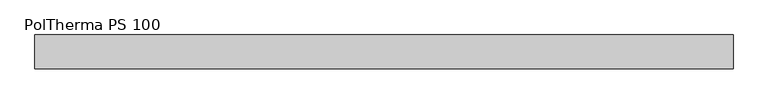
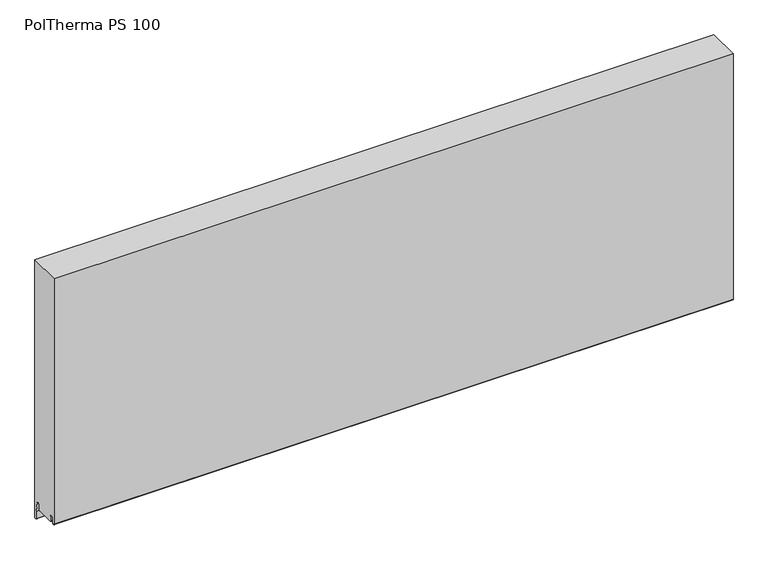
"""IFC4 building model written with IfcOpenShell, lengths in millimetres: plate geometry, Europanels_Poltherma PS_Hz : PolTherma PS 100."""

from ifc_helpers import new_model, si_unit, frame, origin, place, context, project, spatial, polyline, circle_curve, source, transform, mapped, element, save
from ifc_brep_helpers import plane_surface, cylinder_surface, revolved_surface, advanced_brep


def poltherma_ps_100_1a976a6a(model_context):
    return source(origin(), model_context, "Body", "AdvancedBrep", [
        advanced_brep(
        [(1025.0, 50.0, 3.6911192), (1025.0, 50.0, 825.0), (1025.0, -50.0, 825.0), (1025.0, -50.0, 41.7345224), (1025.0, -47.9973085, 39.7345224), (1025.0, -45.27015, 39.7345224), (1025.0, -43.2805625, 41.5307044), (1025.0, -42.306057, 59.5434261), (1025.0, -39.3216758, 62.2376991), (1025.0, -36.3730069, 62.2376991), (1025.0, -33.3900718, 59.5572268), (1025.0, -32.337447, 41.2981312), (1025.0, -30.5974015, 39.7345224), (1025.0, 25.3314364, 38.2345224), (1025.0, 27.6798185, 40.4973354), (1025.0, 28.3397973, 58.2738665), (1025.0, 30.9832499, 60.7376991), (1025.0, 34.3675437, 60.7376991), (1025.0, 36.9690493, 58.5923462), (1025.0, 43.3, 25.9556669), (1025.0, 43.3, 3.2773261), (1025.0, 45.8152999, 1.1585869), (1025.0, 48.2152999, 1.57238), (-1025.0, 50.0, 3.6911192), (-1025.0, 48.2152999, 1.57238), (-1025.0, 45.8152999, 1.1585869), (-1025.0, 43.3, 3.2773261), (-1025.0, 43.3, 25.9556669), (-1025.0, 36.9690493, 58.5923462), (-1025.0, 34.3675437, 60.7376991), (-1025.0, 30.9832499, 60.7376991), (-1025.0, 28.3397973, 58.2738665), (-1025.0, 27.6798185, 40.4973354), (-1025.0, 25.3314364, 38.2345224), (-1025.0, -30.5974015, 39.7345224), (-1025.0, -32.337447, 41.2981312), (-1025.0, -33.3900718, 59.5572268), (-1025.0, -36.3730069, 62.2376991), (-1025.0, -39.3216758, 62.2376991), (-1025.0, -42.306057, 59.5434261), (-1025.0, -43.2805625, 41.5307044), (-1025.0, -45.27015, 39.7345224), (-1025.0, -47.9973085, 39.7345224), (-1025.0, -49.9973085, 41.7345224), (-1025.0, -50.0, 825.0), (-1025.0, 50.0, 825.0)],
        [
            (0, 1),
            (1, 2),
            (2, 3),
            (3, 4, circle_curve(frame((1025.0, -47.9973085, 41.7345224), z_axis=(1.0, 0.0, 0.0), x_axis=(0.0, 1.0, 0.0)), 2.0)),
            (4, 5),
            (5, 6, circle_curve(frame((1025.0, -45.27015, 41.7345224), z_axis=(1.0, 0.0, 0.0), x_axis=(0.0, 1.0, 0.0)), 2.0)),
            (6, 7),
            (7, 8, circle_curve(frame((1025.0, -39.3216758, 59.2376991), z_axis=(-1.0, 0.0, 0.0), x_axis=(0.0, 1.0, 0.0)), 3.0)),
            (8, 9),
            (9, 10, circle_curve(frame((1025.0, -36.3730069, 59.2376991), z_axis=(-1.0, 0.0, 0.0), x_axis=(0.0, 1.0, 0.0)), 3.0)),
            (10, 11),
            (11, 12, circle_curve(frame((1025.0, -30.5974015, 41.4845224), z_axis=(1.0, 0.0, 0.0), x_axis=(0.0, 1.0, 0.0)), 1.75)),
            (12, 13),
            (13, 14, circle_curve(frame((1025.0, 25.3314364, 40.5845224), z_axis=(1.0, 0.0, 0.0), x_axis=(0.0, 1.0, 0.0)), 2.35)),
            (14, 15),
            (15, 16, circle_curve(frame((1025.0, 30.9832499, 58.0876991), z_axis=(-1.0, 0.0, 0.0), x_axis=(0.0, 1.0, 0.0)), 2.65)),
            (16, 17),
            (17, 18, circle_curve(frame((1025.0, 34.3675437, 58.0876991), z_axis=(-1.0, 0.0, 0.0), x_axis=(0.0, 1.0, 0.0)), 2.65)),
            (18, 19),
            (19, 20),
            (20, 21, circle_curve(frame((1025.0, 45.45, 3.2773261), z_axis=(1.0, 0.0, 0.0), x_axis=(0.0, 1.0, 0.0)), 2.15)),
            (21, 22),
            (22, 0, circle_curve(frame((1025.0, 47.85, 3.6911192), z_axis=(1.0, 0.0, 0.0), x_axis=(0.0, 1.0, 0.0)), 2.15)),
            (23, 24, circle_curve(frame((-1025.0, 47.85, 3.6911192), z_axis=(-1.0, 0.0, 0.0), x_axis=(0.0, 1.0, 0.0)), 2.15)),
            (24, 25),
            (25, 26, circle_curve(frame((-1025.0, 45.45, 3.2773261), z_axis=(-1.0, 0.0, 0.0), x_axis=(0.0, 1.0, 0.0)), 2.15)),
            (26, 27),
            (27, 28),
            (28, 29, circle_curve(frame((-1025.0, 34.3675437, 58.0876991), z_axis=(1.0, 0.0, 0.0), x_axis=(0.0, 1.0, 0.0)), 2.65)),
            (29, 30),
            (30, 31, circle_curve(frame((-1025.0, 30.9832499, 58.0876991), z_axis=(1.0, 0.0, 0.0), x_axis=(0.0, 1.0, 0.0)), 2.65)),
            (31, 32),
            (32, 33, circle_curve(frame((-1025.0, 25.3314364, 40.5845224), z_axis=(-1.0, 0.0, 0.0), x_axis=(0.0, 1.0, 0.0)), 2.35)),
            (33, 34),
            (34, 35, circle_curve(frame((-1025.0, -30.5974015, 41.4845224), z_axis=(-1.0, 0.0, 0.0), x_axis=(0.0, 1.0, 0.0)), 1.75)),
            (35, 36),
            (36, 37, circle_curve(frame((-1025.0, -36.3730069, 59.2376991), z_axis=(1.0, 0.0, 0.0), x_axis=(0.0, 1.0, 0.0)), 3.0)),
            (37, 38),
            (38, 39, circle_curve(frame((-1025.0, -39.3216758, 59.2376991), z_axis=(1.0, 0.0, 0.0), x_axis=(0.0, 1.0, 0.0)), 3.0)),
            (39, 40),
            (40, 41, circle_curve(frame((-1025.0, -45.27015, 41.7345224), z_axis=(-1.0, 0.0, 0.0), x_axis=(0.0, 1.0, 0.0)), 2.0)),
            (41, 42),
            (42, 43, circle_curve(frame((-1025.0, -47.9973085, 41.7345224), z_axis=(-1.0, 0.0, 0.0), x_axis=(0.0, 1.0, 0.0)), 2.0)),
            (43, 44),
            (44, 45),
            (45, 23),
            (0, 23),
            (45, 1),
            (2, 44),
            (43, 3),
            (42, 4),
            (41, 5),
            (40, 6),
            (39, 7),
            (38, 8),
            (37, 9),
            (36, 10),
            (35, 11),
            (34, 12),
            (33, 13),
            (32, 14),
            (31, 15),
            (30, 16),
            (29, 17),
            (28, 18),
            (27, 19),
            (26, 20),
            (25, 21),
            (24, 22),
        ],
        [
            plane_surface(frame((1025.0, 50.0, 825.0), z_axis=(1.0, 0.0, 0.0), x_axis=(0.0, 0.0, 1.0))),
            plane_surface(frame((-1025.0, 50.0, 825.0), z_axis=(-1.0, 0.0, 0.0), x_axis=(0.0, 0.0, -1.0))),
            plane_surface(frame((1025.0, 50.0, 3.6911192), z_axis=(0.0, 1.0, 0.0), x_axis=(-1.0, 0.0, 0.0))),
            plane_surface(frame((1025.0, -50.0, 825.0), z_axis=(0.0, -1.0, 0.0), x_axis=(-1.0, 0.0, 0.0))),
            cylinder_surface(frame((-1025.0, -47.9973085, 41.7345224), z_axis=(1.0, 0.0, 0.0), x_axis=(0.0, 1.0, 0.0)), 2.0),
            plane_surface(frame((1025.0, -47.9973085, 39.7345224), z_axis=(0.0, 0.0, -1.0), x_axis=(-1.0, 0.0, 0.0))),
            cylinder_surface(frame((-1025.0, -45.27015, 41.7345224), z_axis=(1.0, 0.0, 0.0), x_axis=(0.0, 1.0, 0.0)), 2.0),
            plane_surface(frame((1025.0, -43.2805625, 41.5307044), z_axis=(0.0, 0.9985397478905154, -0.05402195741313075), x_axis=(-1.0, 0.0, 0.0))),
            revolved_surface(polyline([(-1025.0, -36.3216758, 59.2376991), (1025.0, -36.3216758, 59.2376991)]), (-1025.0, -39.3216758, 59.2376991), (-1.0, 0.0, 0.0)),
            plane_surface(frame((1025.0, -39.3216758, 62.2376991), z_axis=(0.0, 0.0, -1.0), x_axis=(-1.0, 0.0, 0.0))),
            revolved_surface(polyline([(-1025.0, -33.3730069, 59.2376991), (1025.0, -33.3730069, 59.2376991)]), (-1025.0, -36.3730069, 59.2376991), (-1.0, 0.0, 0.0)),
            plane_surface(frame((1025.0, -33.3900718, 59.5572268), z_axis=(0.0, -0.9983424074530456, -0.05755377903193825), x_axis=(-1.0, 0.0, 0.0))),
            cylinder_surface(frame((-1025.0, -30.5974015, 41.4845224), z_axis=(1.0, 0.0, 0.0), x_axis=(0.0, 1.0, 0.0)), 1.75),
            plane_surface(frame((1025.0, -30.5974015, 39.7345224), z_axis=(0.0, -0.026810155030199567, -0.999640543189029), x_axis=(-1.0, 0.0, 0.0))),
            cylinder_surface(frame((-1025.0, 25.3314364, 40.5845224), z_axis=(1.0, 0.0, 0.0), x_axis=(0.0, 1.0, 0.0)), 2.35),
            plane_surface(frame((1025.0, 27.6798185, 40.4973354), z_axis=(0.0, 0.9993115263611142, -0.03710085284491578), x_axis=(-1.0, 0.0, 0.0))),
            revolved_surface(polyline([(-1025.0, 33.6332499, 58.0876991), (1025.0, 33.6332499, 58.0876991)]), (-1025.0, 30.9832499, 58.0876991), (-1.0, 0.0, 0.0)),
            plane_surface(frame((1025.0, 30.9832499, 60.7376991), z_axis=(0.0, -2.2622766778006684e-12, -1.0), x_axis=(-1.0, 0.0, 0.0))),
            revolved_surface(polyline([(-1025.0, 37.0175437, 58.0876991), (1025.0, 37.0175437, 58.0876991)]), (-1025.0, 34.3675437, 58.0876991), (-1.0, 0.0, 0.0)),
            plane_surface(frame((1025.0, 36.9690493, 58.5923462), z_axis=(0.0, -0.9817002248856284, -0.19043284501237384), x_axis=(-1.0, 0.0, 0.0))),
            plane_surface(frame((1025.0, 43.3, 25.9556669), z_axis=(0.0, -1.0, 0.0), x_axis=(-1.0, 0.0, 0.0))),
            cylinder_surface(frame((-1025.0, 45.45, 3.2773261), z_axis=(1.0, 0.0, 0.0), x_axis=(0.0, 1.0, 0.0)), 2.15),
            plane_surface(frame((1025.0, 45.8152999, 1.1585869), z_axis=(0.0, 0.16990691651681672, -0.9854601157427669), x_axis=(-1.0, 0.0, 0.0))),
            cylinder_surface(frame((-1025.0, 47.85, 3.6911192), z_axis=(1.0, 0.0, 0.0), x_axis=(0.0, 1.0, 0.0)), 2.15),
            plane_surface(frame((1025.0, 50.0, 825.0), z_axis=(0.0, 0.0, 1.0), x_axis=(-1.0, 0.0, 0.0))),
        ],
        [
            (0, [[1, 2, 3, 4, 5, 6, 7, 8, 9, 10, 11, 12, 13, 14, 15, 16, 17, 18, 19, 20, 21, 22, 23]]),
            (1, [[24, 25, 26, 27, 28, 29, 30, 31, 32, 33, 34, 35, 36, 37, 38, 39, 40, 41, 42, 43, 44, 45, 46]]),
            (2, [[-1, 47, -46, 48]]),
            (3, [[-3, 49, -44, 50]]),
            (4, [[-4, -50, -43, 51]]),
            (5, [[-5, -51, -42, 52]]),
            (6, [[-6, -52, -41, 53]]),
            (7, [[-7, -53, -40, 54]]),
            (8, [[-8, -54, -39, 55]]),
            (9, [[-9, -55, -38, 56]]),
            (10, [[-10, -56, -37, 57]]),
            (11, [[-11, -57, -36, 58]]),
            (12, [[-12, -58, -35, 59]]),
            (13, [[-13, -59, -34, 60]]),
            (14, [[-14, -60, -33, 61]]),
            (15, [[-15, -61, -32, 62]]),
            (16, [[-16, -62, -31, 63]]),
            (17, [[-17, -63, -30, 64]]),
            (18, [[-18, -64, -29, 65]]),
            (19, [[-19, -65, -28, 66]]),
            (20, [[-20, -66, -27, 67]]),
            (21, [[-21, -67, -26, 68]]),
            (22, [[-22, -68, -25, 69]]),
            (23, [[-23, -69, -24, -47]]),
            (24, [[-2, -48, -45, -49]]),
        ],
    ),
    ])


if __name__ == "__main__":
    model = new_model("IFC4")
    model_context = context("Model", 3, world=origin())
    ifc_project = project(units=[si_unit("LENGTHUNIT", "METRE", prefix="MILLI")], contexts=[model_context])
    site = spatial("IfcSite", under=ifc_project)
    building = spatial("IfcBuilding", under=site)
    placement = place(None, origin())
    poltherma_ps_100_shape = poltherma_ps_100_1a976a6a(model_context)
    element("IfcPlate", 1, ObjectType="Europanels_Poltherma PS_Hz : PolTherma PS 100", at=placement, inside=building, context=model_context, shape_type="MappedRepresentation", body=[
        mapped(poltherma_ps_100_shape, transform((0.0, 0.0, 0.0), x_axis=(1.0, 0.0, 0.0), y_axis=(0.0, 1.0, 0.0), z_axis=(0.0, 0.0, 1.0))),
    ])
    save(model, "model.ifc")
